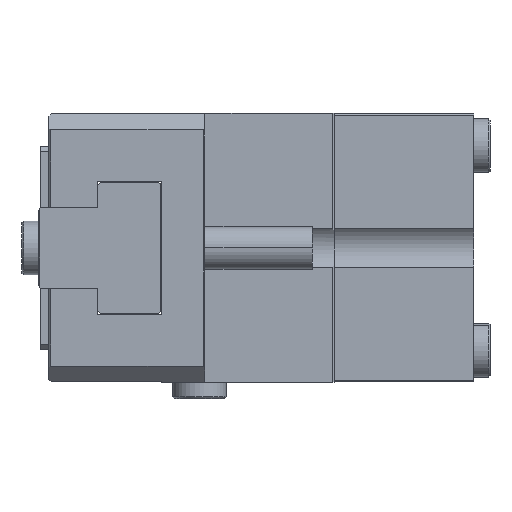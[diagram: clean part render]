
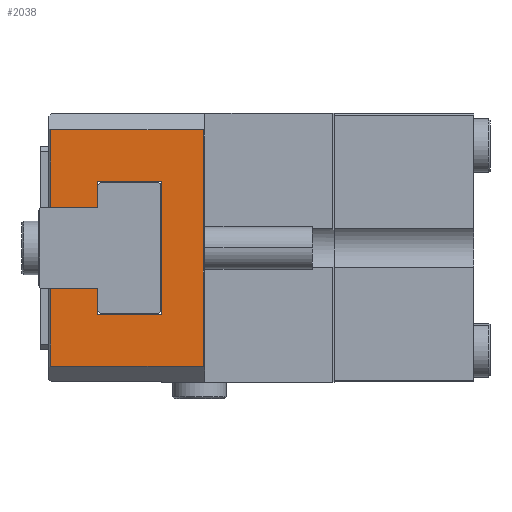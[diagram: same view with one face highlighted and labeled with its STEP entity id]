
A CAD part, left-side view. The second image highlights one B-rep face of the part: STEP entity #2038.
In plain terms, the highlighted planar face has unit normal (-1, 0, 0).
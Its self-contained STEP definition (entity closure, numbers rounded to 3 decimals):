
#697 = VERTEX_POINT ( 'NONE', #17859 ) ;
#1174 = DIRECTION ( 'NONE',  ( 0., 1., 0. ) ) ;
#1440 = DIRECTION ( 'NONE',  ( 0., -0.707, 0.707 ) ) ;
#1825 = VERTEX_POINT ( 'NONE', #34008 ) ;
#1991 = VERTEX_POINT ( 'NONE', #10664 ) ;
#2038 = ADVANCED_FACE ( 'NONE', ( #52207 ), #14787, .F. ) ;
#2070 = VERTEX_POINT ( 'NONE', #6916 ) ;
#2457 = LINE ( 'NONE', #9664, #40709 ) ;
#3177 = LINE ( 'NONE', #51823, #45259 ) ;
#3346 = DIRECTION ( 'NONE',  ( 0., 0.707, 0.707 ) ) ;
#3395 = VERTEX_POINT ( 'NONE', #13885 ) ;
#3412 = DIRECTION ( 'NONE',  ( 0., 0., 1. ) ) ;
#3893 = LINE ( 'NONE', #44045, #44695 ) ;
#4069 = DIRECTION ( 'NONE',  ( 0., -1., 0. ) ) ;
#4228 = EDGE_CURVE ( 'NONE', #25813, #3395, #25280, .T. ) ;
#6377 = CARTESIAN_POINT ( 'NONE',  ( -50., 44., 25. ) ) ;
#6572 = CARTESIAN_POINT ( 'NONE',  ( -50., 52.7, 25. ) ) ;
#6753 = DIRECTION ( 'NONE',  ( 0., 1., 0. ) ) ;
#6916 = CARTESIAN_POINT ( 'NONE',  ( -50., 44., -7.8 ) ) ;
#7346 = EDGE_CURVE ( 'NONE', #2070, #3395, #22051, .T. ) ;
#7906 = LINE ( 'NONE', #49168, #50018 ) ;
#7917 = ORIENTED_EDGE ( 'NONE', *, *, #8890, .F. ) ;
#8128 = LINE ( 'NONE', #9983, #28531 ) ;
#8890 = EDGE_CURVE ( 'NONE', #52454, #1991, #7906, .T. ) ;
#9169 = CARTESIAN_POINT ( 'NONE',  ( -50., 52.7, -12.3 ) ) ;
#9664 = CARTESIAN_POINT ( 'NONE',  ( -50., 52.7, -22. ) ) ;
#9983 = CARTESIAN_POINT ( 'NONE',  ( -50., 102.7, 22. ) ) ;
#10664 = CARTESIAN_POINT ( 'NONE',  ( -50., 52.7, 7.5 ) ) ;
#10777 = VERTEX_POINT ( 'NONE', #30489 ) ;
#11135 = ORIENTED_EDGE ( 'NONE', *, *, #16036, .F. ) ;
#13276 = CARTESIAN_POINT ( 'NONE',  ( -50., 24.3, 22. ) ) ;
#13580 = CARTESIAN_POINT ( 'NONE',  ( -50., 44.3, 7.5 ) ) ;
#13795 = DIRECTION ( 'NONE',  ( 0., -1., 0. ) ) ;
#13885 = CARTESIAN_POINT ( 'NONE',  ( -50., 44.3, -7.5 ) ) ;
#14012 = LINE ( 'NONE', #46840, #46533 ) ;
#14122 = DIRECTION ( 'NONE',  ( 0., -1., 0. ) ) ;
#14417 = VERTEX_POINT ( 'NONE', #51567 ) ;
#14468 = EDGE_CURVE ( 'NONE', #1991, #10777, #3893, .T. ) ;
#14787 = PLANE ( 'NONE',  #22998 ) ;
#15583 = VECTOR ( 'NONE', #25775, 1000. ) ;
#15962 = EDGE_LOOP ( 'NONE', ( #46091, #49706, #31677, #51635, #20000, #50411, #7917, #37069, #37172, #45242, #11135, #21308, #29361, #34576 ) ) ;
#16036 = EDGE_CURVE ( 'NONE', #40548, #697, #14012, .T. ) ;
#16116 = EDGE_CURVE ( 'NONE', #14417, #24479, #3177, .T. ) ;
#16489 = LINE ( 'NONE', #33270, #28558 ) ;
#17859 = CARTESIAN_POINT ( 'NONE',  ( -50., 32., 12.3 ) ) ;
#17928 = EDGE_CURVE ( 'NONE', #31496, #14417, #2457, .T. ) ;
#18367 = VECTOR ( 'NONE', #27722, 1000. ) ;
#18423 = CARTESIAN_POINT ( 'NONE',  ( -50., 52.7, 12.3 ) ) ;
#18926 = EDGE_CURVE ( 'NONE', #10777, #24479, #8128, .T. ) ;
#20000 = ORIENTED_EDGE ( 'NONE', *, *, #18926, .F. ) ;
#20477 = CARTESIAN_POINT ( 'NONE',  ( -50., 52.7, -7.5 ) ) ;
#21189 = DIRECTION ( 'NONE',  ( 0., 0., -1. ) ) ;
#21308 = ORIENTED_EDGE ( 'NONE', *, *, #28407, .F. ) ;
#22051 = LINE ( 'NONE', #52200, #31581 ) ;
#22998 = AXIS2_PLACEMENT_3D ( 'NONE', #6572, #31160, #6753 ) ;
#23123 = VERTEX_POINT ( 'NONE', #36982 ) ;
#23617 = EDGE_CURVE ( 'NONE', #52454, #47501, #52864, .T. ) ;
#23783 = CARTESIAN_POINT ( 'NONE',  ( -50., 32., -12.3 ) ) ;
#24479 = VERTEX_POINT ( 'NONE', #13276 ) ;
#25176 = EDGE_CURVE ( 'NONE', #697, #1825, #29731, .T. ) ;
#25280 = LINE ( 'NONE', #28475, #48277 ) ;
#25775 = DIRECTION ( 'NONE',  ( 0., -1., 0. ) ) ;
#25813 = VERTEX_POINT ( 'NONE', #20477 ) ;
#27722 = DIRECTION ( 'NONE',  ( 0., 0., 1. ) ) ;
#27888 = CARTESIAN_POINT ( 'NONE',  ( -50., 44., 7.8 ) ) ;
#28407 = EDGE_CURVE ( 'NONE', #23123, #40548, #37232, .T. ) ;
#28475 = CARTESIAN_POINT ( 'NONE',  ( -50., 52.7, -7.5 ) ) ;
#28531 = VECTOR ( 'NONE', #14122, 1000. ) ;
#28558 = VECTOR ( 'NONE', #21189, 1000. ) ;
#29316 = VECTOR ( 'NONE', #35253, 1000. ) ;
#29361 = ORIENTED_EDGE ( 'NONE', *, *, #48527, .F. ) ;
#29731 = LINE ( 'NONE', #18423, #51479 ) ;
#30311 = DIRECTION ( 'NONE',  ( 0., 1., 0. ) ) ;
#30489 = CARTESIAN_POINT ( 'NONE',  ( -50., 52.7, 22. ) ) ;
#31160 = DIRECTION ( 'NONE',  ( 1., 0., 0. ) ) ;
#31496 = VERTEX_POINT ( 'NONE', #38375 ) ;
#31581 = VECTOR ( 'NONE', #3346, 1000. ) ;
#31677 = ORIENTED_EDGE ( 'NONE', *, *, #17928, .T. ) ;
#33270 = CARTESIAN_POINT ( 'NONE',  ( -50., 44., 25. ) ) ;
#34008 = CARTESIAN_POINT ( 'NONE',  ( -50., 44., 12.3 ) ) ;
#34576 = ORIENTED_EDGE ( 'NONE', *, *, #7346, .T. ) ;
#35253 = DIRECTION ( 'NONE',  ( 0., 0., -1. ) ) ;
#36235 = EDGE_CURVE ( 'NONE', #1825, #47501, #40188, .T. ) ;
#36982 = CARTESIAN_POINT ( 'NONE',  ( -50., 44., -12.3 ) ) ;
#37069 = ORIENTED_EDGE ( 'NONE', *, *, #23617, .T. ) ;
#37172 = ORIENTED_EDGE ( 'NONE', *, *, #36235, .F. ) ;
#37232 = LINE ( 'NONE', #9169, #15583 ) ;
#38375 = CARTESIAN_POINT ( 'NONE',  ( -50., 52.7, -22. ) ) ;
#40188 = LINE ( 'NONE', #6377, #29316 ) ;
#40548 = VERTEX_POINT ( 'NONE', #23783 ) ;
#40709 = VECTOR ( 'NONE', #13795, 1000. ) ;
#43765 = DIRECTION ( 'NONE',  ( 0., 0., 1. ) ) ;
#44045 = CARTESIAN_POINT ( 'NONE',  ( -50., 52.7, 25. ) ) ;
#44695 = VECTOR ( 'NONE', #3412, 1000. ) ;
#45242 = ORIENTED_EDGE ( 'NONE', *, *, #25176, .F. ) ;
#45259 = VECTOR ( 'NONE', #43765, 1000. ) ;
#46091 = ORIENTED_EDGE ( 'NONE', *, *, #4228, .F. ) ;
#46533 = VECTOR ( 'NONE', #50766, 1000. ) ;
#46639 = CARTESIAN_POINT ( 'NONE',  ( -50., 44.3, 7.5 ) ) ;
#46840 = CARTESIAN_POINT ( 'NONE',  ( -50., 32., 25. ) ) ;
#47501 = VERTEX_POINT ( 'NONE', #27888 ) ;
#48277 = VECTOR ( 'NONE', #4069, 1000. ) ;
#48527 = EDGE_CURVE ( 'NONE', #2070, #23123, #16489, .T. ) ;
#48845 = EDGE_CURVE ( 'NONE', #31496, #25813, #49588, .T. ) ;
#49168 = CARTESIAN_POINT ( 'NONE',  ( -50., 52.7, 7.5 ) ) ;
#49588 = LINE ( 'NONE', #52162, #18367 ) ;
#49706 = ORIENTED_EDGE ( 'NONE', *, *, #48845, .F. ) ;
#50018 = VECTOR ( 'NONE', #1174, 1000. ) ;
#50411 = ORIENTED_EDGE ( 'NONE', *, *, #14468, .F. ) ;
#50766 = DIRECTION ( 'NONE',  ( 0., 0., 1. ) ) ;
#51479 = VECTOR ( 'NONE', #30311, 1000. ) ;
#51567 = CARTESIAN_POINT ( 'NONE',  ( -50., 24.3, -22. ) ) ;
#51573 = VECTOR ( 'NONE', #1440, 1000. ) ;
#51635 = ORIENTED_EDGE ( 'NONE', *, *, #16116, .T. ) ;
#51823 = CARTESIAN_POINT ( 'NONE',  ( -50., 24.3, 25. ) ) ;
#52162 = CARTESIAN_POINT ( 'NONE',  ( -50., 52.7, 25. ) ) ;
#52200 = CARTESIAN_POINT ( 'NONE',  ( -50., 44., -7.8 ) ) ;
#52207 = FACE_OUTER_BOUND ( 'NONE', #15962, .T. ) ;
#52454 = VERTEX_POINT ( 'NONE', #46639 ) ;
#52864 = LINE ( 'NONE', #13580, #51573 ) ;
